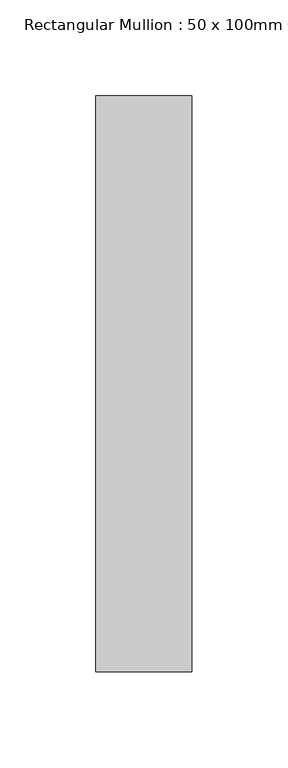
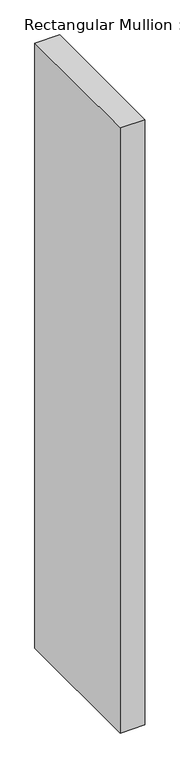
"""IFC4 building model written with IfcOpenShell, lengths in millimetres: member geometry, Rectangular Mullion : 50 x 100mm Cream."""

from ifc_helpers import new_model, si_unit, frame, origin, place, context, project, spatial, polyline, outline, extrude, source, transform, mapped, element, save


def rectangular_mullion_50_x_100mm_cream_3a46165d(model_context):
    return source(origin(), model_context, "Body", "SweptSolid", [
        extrude(outline(polyline([(0.0, 125.0), (0.0, -175.0), (-50.0, -175.0), (-50.0, 125.0), (0.0, 125.0)])), frame((0.0, 0.0, -1300.0), z_axis=(0.0, 0.0, 1.0), x_axis=(1.0, 0.0, 0.0)), (0.0, 0.0, 1.0), 1300.0),
    ])


if __name__ == "__main__":
    model = new_model("IFC4")
    model_context = context("Model", 3, world=origin())
    ifc_project = project(units=[si_unit("LENGTHUNIT", "METRE", prefix="MILLI")], contexts=[model_context])
    site = spatial("IfcSite", under=ifc_project)
    building = spatial("IfcBuilding", under=site)
    placement = place(None, origin())
    rectangular_mullion_50_x_100mm_cream_shape = rectangular_mullion_50_x_100mm_cream_3a46165d(model_context)
    element("IfcMember", 1, ObjectType="Rectangular Mullion : 50 x 100mm Cream", at=placement, inside=building, context=model_context, shape_type="MappedRepresentation", body=[
        mapped(rectangular_mullion_50_x_100mm_cream_shape, transform((0.0, 0.0, 0.0), x_axis=(1.0, 0.0, 0.0), y_axis=(0.0, 1.0, 0.0), z_axis=(0.0, 0.0, 1.0))),
    ])
    save(model, "model.ifc")
